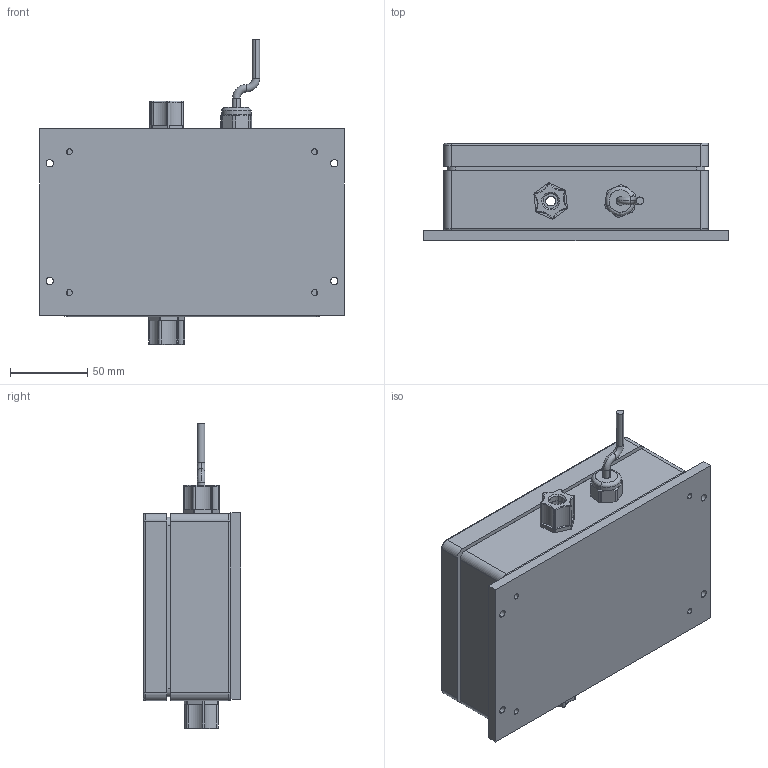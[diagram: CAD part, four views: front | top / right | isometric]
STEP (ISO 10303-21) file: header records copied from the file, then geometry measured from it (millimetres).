
FILE_DESCRIPTION (( 'STEP AP203' ), '1' );
FILE_NAME ('SHELL-190784.STEP', '2019-09-17T15:21:54', ( '' ), ( '' ), 'SwSTEP 2.0', 'SolidWorks 2019', '' );
FILE_SCHEMA (( 'CONFIG_CONTROL_DESIGN' ));
Length unit declared in the file: inch
Products named in the file (6): SHELL-102553; SHELL-190784; SHELL-102470-A1; SHELL-102024; SHELL-102518_5016K444; SHELL-190789
Assembly tree (6 placements, depth 2):
  SHELL-190784
    SHELL-102470-A1
    SHELL-102024
    SHELL-102518_5016K444  x2
    SHELL-190789
    SHELL-102553
Bounding box: 196.85 x 63.09 x 197.81 mm (x, y, z)
Volume: 732254.6 mm3; surface area: 202041.5 mm2
Topology: 9 solids, 113 shells, 542 faces, 1617 edges, 1209 vertices
Faces by surface type: cylinder 244, plane 129, cone 103, torus 46, bspline 20
Entity records: 29932 total; most frequent: CARTESIAN_POINT 19117, DIRECTION 2025, ORIENTED_EDGE 1905, EDGE_CURVE 1195, VERTEX_POINT 940, AXIS2_PLACEMENT_3D 776, VECTOR 473, LINE 473
